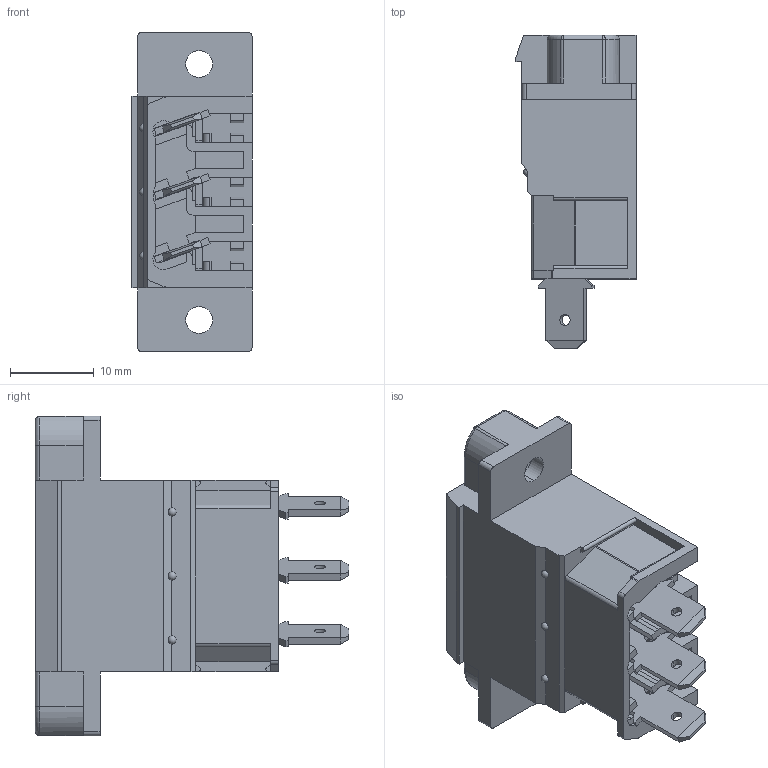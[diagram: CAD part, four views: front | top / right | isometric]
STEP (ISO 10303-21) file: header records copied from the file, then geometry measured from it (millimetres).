
FILE_DESCRIPTION((''),'2;1');
FILE_NAME('3PIN_SW0001','2019-05-22T',('zhenbing.lai'),(''),'CREO PARAMETRIC BY PTC INC, 2016260','CREO PARAMETRIC BY PTC INC, 2016260','');
FILE_SCHEMA(('CONFIG_CONTROL_DESIGN'));
Length unit declared in the file: millimetre
Products named in the file (1): 3PIN_SW0001
Bounding box: 14.3 x 37.3 x 38.1 mm (x, y, z)
Volume: 4967 mm3; surface area: 7488.7 mm2
Topology: 1 solids, 4 shells, 469 faces, 1366 edges, 891 vertices
Faces by surface type: plane 371, cylinder 81, sphere 13, torus 4
Entity records: 15368 total; most frequent: CARTESIAN_POINT 2760, ORIENTED_EDGE 2706, DIRECTION 2518, EDGE_CURVE 1353, VECTOR 1116, LINE 1116, VERTEX_POINT 891, AXIS2_PLACEMENT_3D 701
